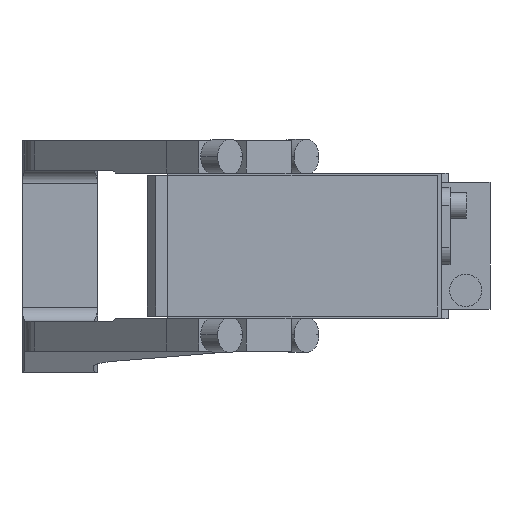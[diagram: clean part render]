
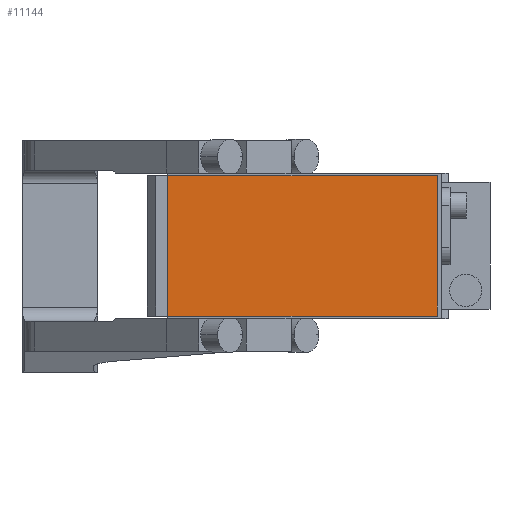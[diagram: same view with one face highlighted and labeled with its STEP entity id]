
A CAD part, front view. The second image highlights one B-rep face of the part: STEP entity #11144.
In plain terms, the highlighted planar face has unit normal (0, -1, 0).
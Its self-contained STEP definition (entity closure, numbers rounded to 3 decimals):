
#967 = CARTESIAN_POINT ( 'NONE',  ( -19., -286.5, 26. ) ) ;
#1389 = CARTESIAN_POINT ( 'NONE',  ( -19., -286.5, -26. ) ) ;
#1526 = CARTESIAN_POINT ( 'NONE',  ( -19., -286.5, 26. ) ) ;
#2780 = EDGE_CURVE ( 'NONE', #12792, #12009, #12291, .T. ) ;
#2833 = CARTESIAN_POINT ( 'NONE',  ( 81., -286.5, 26. ) ) ;
#2834 = ORIENTED_EDGE ( 'NONE', *, *, #2780, .T. ) ;
#3106 = CARTESIAN_POINT ( 'NONE',  ( 81., -286.5, 26. ) ) ;
#3672 = EDGE_CURVE ( 'NONE', #8018, #13226, #4509, .T. ) ;
#4409 = VECTOR ( 'NONE', #12370, 1000. ) ;
#4492 = VECTOR ( 'NONE', #7200, 1000. ) ;
#4501 = LINE ( 'NONE', #1389, #4409 ) ;
#4509 = LINE ( 'NONE', #3106, #7594 ) ;
#5752 = CARTESIAN_POINT ( 'NONE',  ( 0., -286.5, 0. ) ) ;
#5836 = EDGE_LOOP ( 'NONE', ( #2834, #12211, #9019, #11017 ) ) ;
#6032 = PLANE ( 'NONE',  #10780 ) ;
#6083 = CARTESIAN_POINT ( 'NONE',  ( -19., -286.5, 26. ) ) ;
#6777 = DIRECTION ( 'NONE',  ( 0., 0., -1. ) ) ;
#7200 = DIRECTION ( 'NONE',  ( -1., 0., 0. ) ) ;
#7413 = DIRECTION ( 'NONE',  ( 0., 0., 1. ) ) ;
#7594 = VECTOR ( 'NONE', #7413, 1000. ) ;
#8018 = VERTEX_POINT ( 'NONE', #12564 ) ;
#8980 = EDGE_CURVE ( 'NONE', #13226, #12792, #11379, .T. ) ;
#9019 = ORIENTED_EDGE ( 'NONE', *, *, #3672, .T. ) ;
#10780 = AXIS2_PLACEMENT_3D ( 'NONE', #5752, #13411, #12478 ) ;
#11017 = ORIENTED_EDGE ( 'NONE', *, *, #8980, .T. ) ;
#11144 = ADVANCED_FACE ( 'NONE', ( #12266 ), #6032, .T. ) ;
#11379 = LINE ( 'NONE', #6083, #4492 ) ;
#12009 = VERTEX_POINT ( 'NONE', #13384 ) ;
#12211 = ORIENTED_EDGE ( 'NONE', *, *, #13906, .T. ) ;
#12266 = FACE_OUTER_BOUND ( 'NONE', #5836, .T. ) ;
#12291 = LINE ( 'NONE', #1526, #12999 ) ;
#12370 = DIRECTION ( 'NONE',  ( 1., 0., 0. ) ) ;
#12478 = DIRECTION ( 'NONE',  ( 0., 0., -1. ) ) ;
#12564 = CARTESIAN_POINT ( 'NONE',  ( 81., -286.5, -26. ) ) ;
#12792 = VERTEX_POINT ( 'NONE', #967 ) ;
#12999 = VECTOR ( 'NONE', #6777, 1000. ) ;
#13226 = VERTEX_POINT ( 'NONE', #2833 ) ;
#13384 = CARTESIAN_POINT ( 'NONE',  ( -19., -286.5, -26. ) ) ;
#13411 = DIRECTION ( 'NONE',  ( 0., -1., 0. ) ) ;
#13906 = EDGE_CURVE ( 'NONE', #12009, #8018, #4501, .T. ) ;
